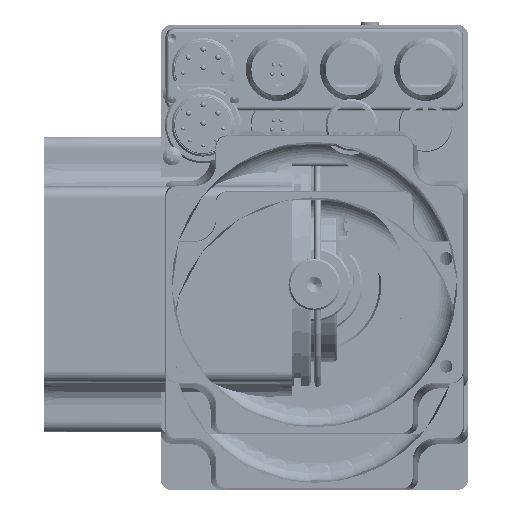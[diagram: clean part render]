
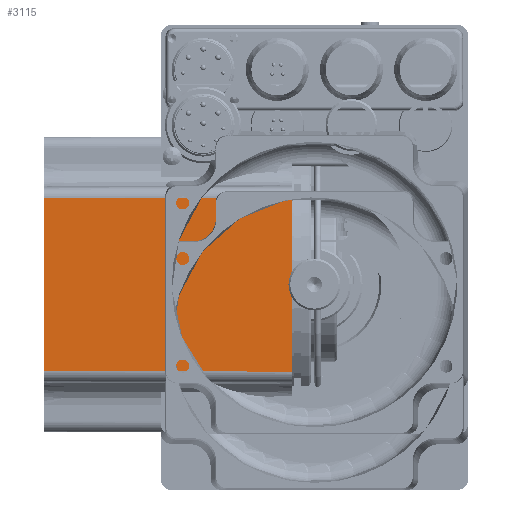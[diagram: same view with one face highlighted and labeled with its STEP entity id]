
A CAD part, front view. The second image highlights one B-rep face of the part: STEP entity #3115.
In plain terms, the highlighted planar face has unit normal (-0.003, -1, 0).
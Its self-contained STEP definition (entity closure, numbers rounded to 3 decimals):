
#3115 = ADVANCED_FACE( '', ( #7419 ), #7420, .T. );
#7419 = FACE_OUTER_BOUND( '', #16980, .T. );
#7420 = PLANE( '', #16981 );
#16980 = EDGE_LOOP( '', ( #31637, #31638, #31639, #31640 ) );
#16981 = AXIS2_PLACEMENT_3D( '', #31641, #31642, #31643 );
#31637 = ORIENTED_EDGE( '', *, *, #41771, .T. );
#31638 = ORIENTED_EDGE( '', *, *, #41772, .T. );
#31639 = ORIENTED_EDGE( '', *, *, #41773, .T. );
#31640 = ORIENTED_EDGE( '', *, *, #41774, .T. );
#31641 = CARTESIAN_POINT( '', ( -5., -40., 0. ) );
#31642 = DIRECTION( '', ( -0.003, -1., 0. ) );
#31643 = DIRECTION( '', ( 1., -0.003, 0. ) );
#41771 = EDGE_CURVE( '', #49032, #49033, #49034, .T. );
#41772 = EDGE_CURVE( '', #49033, #49035, #49036, .T. );
#41773 = EDGE_CURVE( '', #49035, #49037, #49038, .T. );
#41774 = EDGE_CURVE( '', #49037, #49032, #49039, .T. );
#49032 = VERTEX_POINT( '', #68975 );
#49033 = VERTEX_POINT( '', #68976 );
#49034 = LINE( '', #68977, #68978 );
#49035 = VERTEX_POINT( '', #68979 );
#49036 = LINE( '', #68980, #68981 );
#49037 = VERTEX_POINT( '', #68982 );
#49038 = LINE( '', #68983, #68984 );
#49039 = LINE( '', #68985, #68986 );
#68975 = CARTESIAN_POINT( '', ( -73., -39.802, -23.302 ) );
#68976 = CARTESIAN_POINT( '', ( -6., -39.997, -23.497 ) );
#68977 = CARTESIAN_POINT( '', ( -4.991, -40., -23.5 ) );
#68978 = VECTOR( '', #78230, 1000. );
#68979 = CARTESIAN_POINT( '', ( -6., -39.997, 23.497 ) );
#68980 = CARTESIAN_POINT( '', ( -6., -39.997, 0. ) );
#68981 = VECTOR( '', #78231, 1000. );
#68982 = CARTESIAN_POINT( '', ( -73., -39.802, 23.302 ) );
#68983 = CARTESIAN_POINT( '', ( -98.991, -39.727, 23.227 ) );
#68984 = VECTOR( '', #78232, 1000. );
#68985 = CARTESIAN_POINT( '', ( -73., -39.802, 0. ) );
#68986 = VECTOR( '', #78233, 1000. );
#78230 = DIRECTION( '', ( 1., -0.003, -0.003 ) );
#78231 = DIRECTION( '', ( 0., 0., 1. ) );
#78232 = DIRECTION( '', ( -1., 0.003, -0.003 ) );
#78233 = DIRECTION( '', ( 0., 0., -1. ) );
